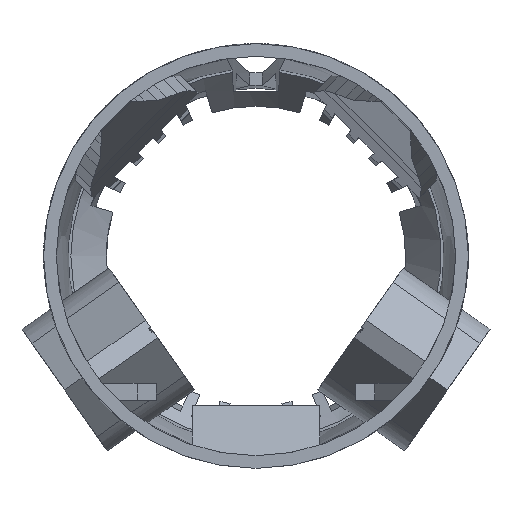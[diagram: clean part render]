
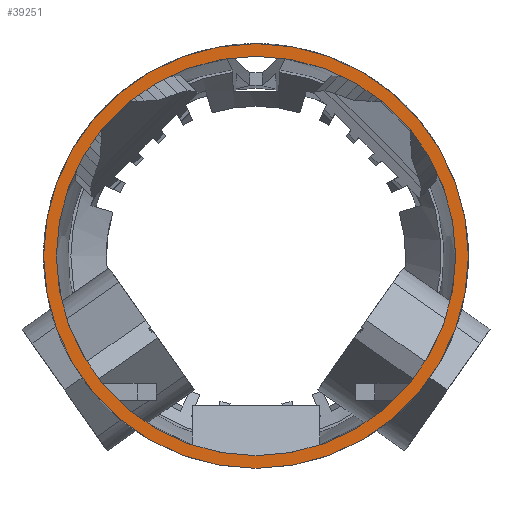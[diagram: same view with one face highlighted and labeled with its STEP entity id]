
A CAD part, left-side view. The second image highlights one B-rep face of the part: STEP entity #39251.
In plain terms, the highlighted planar face has unit normal (-1, 0, 0).
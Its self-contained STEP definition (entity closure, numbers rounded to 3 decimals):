
#21 = EDGE_CURVE('',#22,#22,#24,.T.);
#22 = VERTEX_POINT('',#23);
#23 = CARTESIAN_POINT('',(350.,20.,0.));
#24 = SURFACE_CURVE('',#25,(#30,#42),.PCURVE_S1.);
#25 = CIRCLE('',#26,20.);
#26 = AXIS2_PLACEMENT_3D('',#27,#28,#29);
#27 = CARTESIAN_POINT('',(350.,0.,0.));
#28 = DIRECTION('',(1.,0.,0.));
#29 = DIRECTION('',(-0.,1.,0.));
#30 = PCURVE('',#31,#36);
#31 = CYLINDRICAL_SURFACE('',#32,20.);
#32 = AXIS2_PLACEMENT_3D('',#33,#34,#35);
#33 = CARTESIAN_POINT('',(42.,0.,0.));
#34 = DIRECTION('',(1.,0.,0.));
#35 = DIRECTION('',(-0.,1.,0.));
#36 = DEFINITIONAL_REPRESENTATION('',(#37),#41);
#37 = LINE('',#38,#39);
#38 = CARTESIAN_POINT('',(0.,308.));
#39 = VECTOR('',#40,1.);
#40 = DIRECTION('',(1.,0.));
#41 = ( GEOMETRIC_REPRESENTATION_CONTEXT(2) 
PARAMETRIC_REPRESENTATION_CONTEXT() REPRESENTATION_CONTEXT('2D SPACE',''
  ) );
#42 = PCURVE('',#43,#48);
#43 = PLANE('',#44);
#44 = AXIS2_PLACEMENT_3D('',#45,#46,#47);
#45 = CARTESIAN_POINT('',(350.,-60.,-120.));
#46 = DIRECTION('',(1.,0.,-0.));
#47 = DIRECTION('',(0.,0.,1.));
#48 = DEFINITIONAL_REPRESENTATION('',(#49),#53);
#49 = CIRCLE('',#50,20.);
#50 = AXIS2_PLACEMENT_2D('',#51,#52);
#51 = CARTESIAN_POINT('',(120.,-60.));
#52 = DIRECTION('',(0.,-1.));
#53 = ( GEOMETRIC_REPRESENTATION_CONTEXT(2) 
PARAMETRIC_REPRESENTATION_CONTEXT() REPRESENTATION_CONTEXT('2D SPACE',''
  ) );
#4760 = CYLINDRICAL_SURFACE('',#4761,18.8);
#4761 = AXIS2_PLACEMENT_3D('',#4762,#4763,#4764);
#4762 = CARTESIAN_POINT('',(42.,0.,0.));
#4763 = DIRECTION('',(1.,0.,0.));
#4764 = DIRECTION('',(-0.,1.,0.));
#8584 = VERTEX_POINT('',#8585);
#8585 = CARTESIAN_POINT('',(350.,18.8,0.));
#8606 = EDGE_CURVE('',#8584,#8584,#8607,.T.);
#8607 = SURFACE_CURVE('',#8608,(#8613,#8620),.PCURVE_S1.);
#8608 = CIRCLE('',#8609,18.8);
#8609 = AXIS2_PLACEMENT_3D('',#8610,#8611,#8612);
#8610 = CARTESIAN_POINT('',(350.,0.,0.));
#8611 = DIRECTION('',(1.,0.,0.));
#8612 = DIRECTION('',(-0.,1.,0.));
#8613 = PCURVE('',#4760,#8614);
#8614 = DEFINITIONAL_REPRESENTATION('',(#8615),#8619);
#8615 = LINE('',#8616,#8617);
#8616 = CARTESIAN_POINT('',(0.,308.));
#8617 = VECTOR('',#8618,1.);
#8618 = DIRECTION('',(1.,0.));
#8619 = ( GEOMETRIC_REPRESENTATION_CONTEXT(2) 
PARAMETRIC_REPRESENTATION_CONTEXT() REPRESENTATION_CONTEXT('2D SPACE',''
  ) );
#8620 = PCURVE('',#43,#8621);
#8621 = DEFINITIONAL_REPRESENTATION('',(#8622),#8626);
#8622 = CIRCLE('',#8623,18.8);
#8623 = AXIS2_PLACEMENT_2D('',#8624,#8625);
#8624 = CARTESIAN_POINT('',(120.,-60.));
#8625 = DIRECTION('',(0.,-1.));
#8626 = ( GEOMETRIC_REPRESENTATION_CONTEXT(2) 
PARAMETRIC_REPRESENTATION_CONTEXT() REPRESENTATION_CONTEXT('2D SPACE',''
  ) );
#39251 = ADVANCED_FACE('',(#39252,#39255),#43,.F.);
#39252 = FACE_BOUND('',#39253,.F.);
#39253 = EDGE_LOOP('',(#39254));
#39254 = ORIENTED_EDGE('',*,*,#21,.T.);
#39255 = FACE_BOUND('',#39256,.F.);
#39256 = EDGE_LOOP('',(#39257));
#39257 = ORIENTED_EDGE('',*,*,#8606,.F.);
